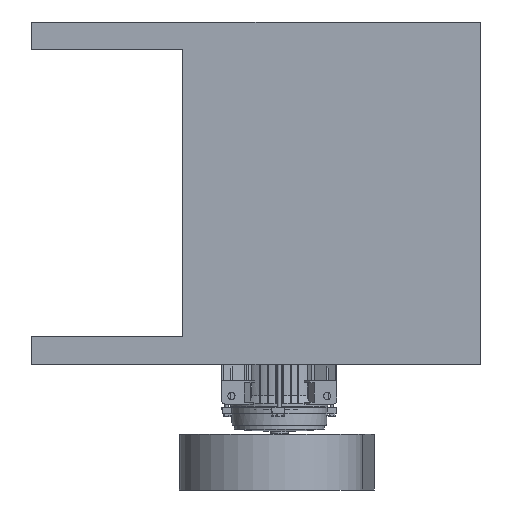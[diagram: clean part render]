
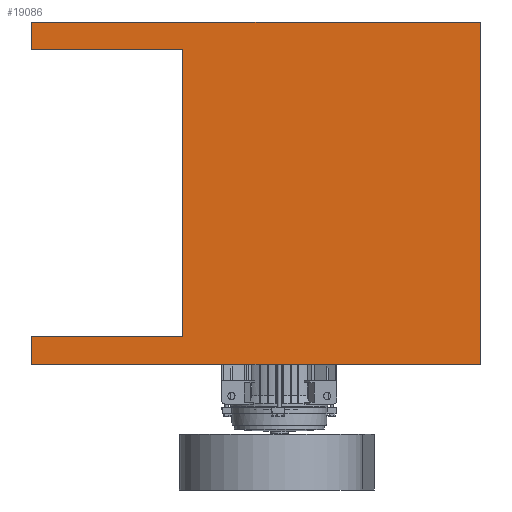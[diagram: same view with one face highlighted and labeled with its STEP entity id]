
A CAD part, front view. The second image highlights one B-rep face of the part: STEP entity #19086.
In plain terms, the highlighted planar face has unit normal (0, -1, 0).
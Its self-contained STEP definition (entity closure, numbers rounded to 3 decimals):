
#54 = LINE ( 'NONE', #38675, #24717 ) ;
#327 = VERTEX_POINT ( 'NONE', #19539 ) ;
#866 = CARTESIAN_POINT ( 'NONE',  ( -122.515, -176.895, -240. ) ) ;
#1759 = CARTESIAN_POINT ( 'NONE',  ( -375.515, -176.895, 240. ) ) ;
#2114 = ORIENTED_EDGE ( 'NONE', *, *, #37863, .T. ) ;
#2154 = DIRECTION ( 'NONE',  ( -1., 0., 0. ) ) ;
#2275 = EDGE_LOOP ( 'NONE', ( #7208, #13813, #2114, #20483, #3244, #16509, #18871, #30271 ) ) ;
#2316 = CARTESIAN_POINT ( 'NONE',  ( -375.515, -176.895, -240. ) ) ;
#2448 = CARTESIAN_POINT ( 'NONE',  ( -375.515, -176.895, -286. ) ) ;
#3104 = VECTOR ( 'NONE', #4129, 1000. ) ;
#3244 = ORIENTED_EDGE ( 'NONE', *, *, #35837, .F. ) ;
#3389 = LINE ( 'NONE', #10358, #33111 ) ;
#3982 = FACE_OUTER_BOUND ( 'NONE', #2275, .T. ) ;
#4129 = DIRECTION ( 'NONE',  ( 0., 0., -1. ) ) ;
#6971 = VERTEX_POINT ( 'NONE', #2448 ) ;
#6982 = VECTOR ( 'NONE', #37363, 1000. ) ;
#7208 = ORIENTED_EDGE ( 'NONE', *, *, #39861, .T. ) ;
#7320 = DIRECTION ( 'NONE',  ( 0., 0., -1. ) ) ;
#7932 = LINE ( 'NONE', #24917, #39237 ) ;
#7973 = LINE ( 'NONE', #18873, #6982 ) ;
#9194 = CARTESIAN_POINT ( 'NONE',  ( 0., -176.895, 243. ) ) ;
#9474 = VERTEX_POINT ( 'NONE', #1759 ) ;
#9820 = EDGE_CURVE ( 'NONE', #24629, #6971, #36357, .T. ) ;
#10358 = CARTESIAN_POINT ( 'NONE',  ( 374.485, -176.895, 243. ) ) ;
#10546 = CARTESIAN_POINT ( 'NONE',  ( -375.515, -176.895, 243. ) ) ;
#11040 = CARTESIAN_POINT ( 'NONE',  ( 374.485, -176.895, 286. ) ) ;
#12604 = EDGE_CURVE ( 'NONE', #39820, #25015, #14758, .T. ) ;
#13813 = ORIENTED_EDGE ( 'NONE', *, *, #12604, .T. ) ;
#14758 = LINE ( 'NONE', #19121, #15785 ) ;
#15785 = VECTOR ( 'NONE', #34582, 1000. ) ;
#15959 = DIRECTION ( 'NONE',  ( 0., 0., 1. ) ) ;
#16509 = ORIENTED_EDGE ( 'NONE', *, *, #27736, .F. ) ;
#18871 = ORIENTED_EDGE ( 'NONE', *, *, #25716, .T. ) ;
#18873 = CARTESIAN_POINT ( 'NONE',  ( -375.515, -176.895, 240. ) ) ;
#19086 = ADVANCED_FACE ( 'NONE', ( #3982 ), #31639, .F. ) ;
#19121 = CARTESIAN_POINT ( 'NONE',  ( -122.515, -176.895, -240. ) ) ;
#19539 = CARTESIAN_POINT ( 'NONE',  ( -375.515, -176.895, 286. ) ) ;
#19984 = VECTOR ( 'NONE', #7320, 1000. ) ;
#20177 = CARTESIAN_POINT ( 'NONE',  ( -375.515, -176.895, 243. ) ) ;
#20483 = ORIENTED_EDGE ( 'NONE', *, *, #9820, .T. ) ;
#21706 = DIRECTION ( 'NONE',  ( -1., 0., 0. ) ) ;
#22803 = CARTESIAN_POINT ( 'NONE',  ( -375.515, -176.895, -240. ) ) ;
#24629 = VERTEX_POINT ( 'NONE', #2316 ) ;
#24717 = VECTOR ( 'NONE', #2154, 1000. ) ;
#24917 = CARTESIAN_POINT ( 'NONE',  ( -375.515, -176.895, 286. ) ) ;
#25015 = VERTEX_POINT ( 'NONE', #866 ) ;
#25200 = CARTESIAN_POINT ( 'NONE',  ( -122.515, -176.895, 240. ) ) ;
#25716 = EDGE_CURVE ( 'NONE', #32710, #327, #7932, .T. ) ;
#27736 = EDGE_CURVE ( 'NONE', #32710, #30824, #3389, .T. ) ;
#30271 = ORIENTED_EDGE ( 'NONE', *, *, #37123, .T. ) ;
#30824 = VERTEX_POINT ( 'NONE', #35852 ) ;
#31419 = LINE ( 'NONE', #22803, #40290 ) ;
#31639 = PLANE ( 'NONE',  #37055 ) ;
#32359 = DIRECTION ( 'NONE',  ( 0., 0., -1. ) ) ;
#32710 = VERTEX_POINT ( 'NONE', #11040 ) ;
#33111 = VECTOR ( 'NONE', #32359, 1000. ) ;
#34582 = DIRECTION ( 'NONE',  ( 0., 0., -1. ) ) ;
#34652 = DIRECTION ( 'NONE',  ( 0., 1., 0. ) ) ;
#35837 = EDGE_CURVE ( 'NONE', #30824, #6971, #54, .T. ) ;
#35852 = CARTESIAN_POINT ( 'NONE',  ( 374.485, -176.895, -286. ) ) ;
#36357 = LINE ( 'NONE', #10546, #19984 ) ;
#36567 = LINE ( 'NONE', #20177, #3104 ) ;
#37055 = AXIS2_PLACEMENT_3D ( 'NONE', #9194, #34652, #15959 ) ;
#37123 = EDGE_CURVE ( 'NONE', #327, #9474, #36567, .T. ) ;
#37363 = DIRECTION ( 'NONE',  ( 1., 0., 0. ) ) ;
#37863 = EDGE_CURVE ( 'NONE', #25015, #24629, #31419, .T. ) ;
#37994 = DIRECTION ( 'NONE',  ( -1., 0., 0. ) ) ;
#38675 = CARTESIAN_POINT ( 'NONE',  ( -375.515, -176.895, -286. ) ) ;
#39237 = VECTOR ( 'NONE', #21706, 1000. ) ;
#39820 = VERTEX_POINT ( 'NONE', #25200 ) ;
#39861 = EDGE_CURVE ( 'NONE', #9474, #39820, #7973, .T. ) ;
#40290 = VECTOR ( 'NONE', #37994, 1000. ) ;
